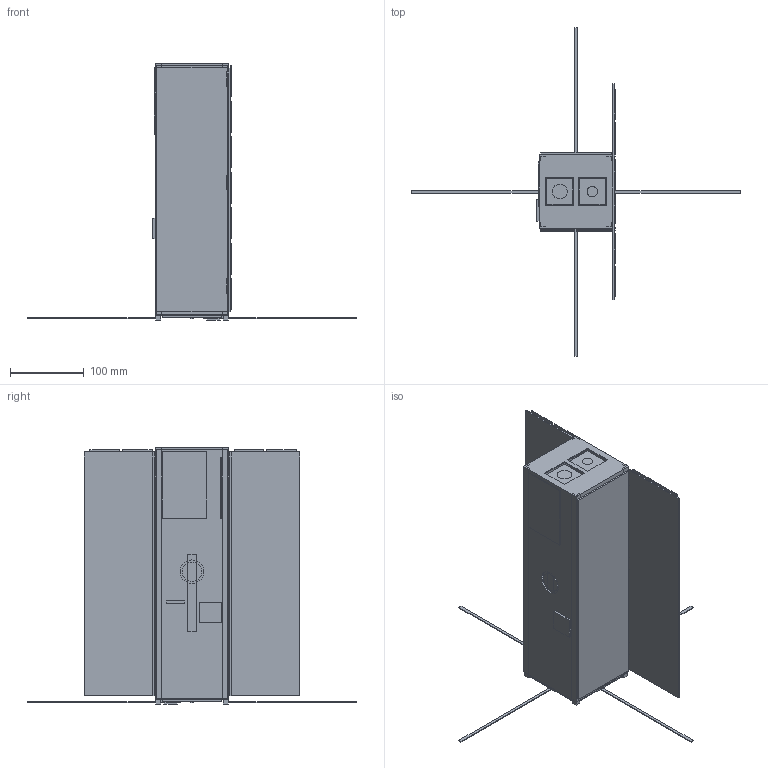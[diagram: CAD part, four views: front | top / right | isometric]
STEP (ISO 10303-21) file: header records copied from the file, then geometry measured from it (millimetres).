
FILE_DESCRIPTION(('Open CASCADE Model'),'2;1');
FILE_NAME('MetaCube_3U','2026-08-12T02:42:46',('Author'),('Open CASCADE' ),'Open CASCADE STEP processor 7.9','build123d','Unknown');
FILE_SCHEMA(('AUTOMOTIVE_DESIGN { 1 0 10303 214 1 1 1 1 }'));
Length unit declared in the file: millimetre
Products named in the file (196): MetaCube_3U; structure_skin; rails; COMPOUND; standoffs; prop_case; prop_tank; prop_valve; nozzle; uhf_board; gpsimu_board; sband_board; obc_board; eps_board; battery; adcs_boards; rws; torquers; startracker; reinforce; opt_base; tubes; apertures; detectors; opt_if; heaters; pt1000; strap; rf_coax; harness; harness_zone; radiator; solar_sub; solar_cells; aux_cells; hinges; wings_dep; wing_cells; wings_stowed; sband_patch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
Assembly tree (198 placements, depth 3):
  MetaCube_3U
    structure_skin
    rails
      COMPOUND  x4
    standoffs
      COMPOUND
      COMPOUND
      COMPOUND
      COMPOUND
      COMPOUND
      COMPOUND
      COMPOUND
      COMPOUND
      COMPOUND
      COMPOUND
      COMPOUND
      COMPOUND
      COMPOUND
      COMPOUND
      COMPOUND
      COMPOUND
      COMPOUND
      COMPOUND
      COMPOUND
      COMPOUND
    prop_case
    prop_tank
    prop_valve
    nozzle
      COMPOUND
      COMPOUND
    uhf_board
      COMPOUND
      COMPOUND
      COMPOUND
    gpsimu_board
    sband_board
    obc_board
      COMPOUND
      COMPOUND
    eps_board
      COMPOUND
      COMPOUND
    battery
    adcs_boards
      COMPOUND
      COMPOUND
    rws
      COMPOUND
      COMPOUND
      COMPOUND
    torquers
      COMPOUND
      COMPOUND
    startracker
      COMPOUND
      COMPOUND
    reinforce
      COMPOUND
      COMPOUND
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Bounding box: 444 x 444 x 346.5 mm (x, y, z)
Volume: 2304940.4 mm3; surface area: 1355586 mm2
Topology: 166 solids, 168 shells, 953 faces, 1845 edges, 1230 vertices
Faces by surface type: plane 922, cylinder 30, cone 1
Full cylindrical faces by diameter (mm): 3 x4, 6 x1, 7 x16, 14 x1, 19 x1, 20 x1, 26 x1, 32 x1, 33 x3, 78 x1
Entity records: 49534 total; most frequent: CARTESIAN_POINT 7767, DIRECTION 7619, LINE 5177, VECTOR 5177, ORIENTED_EDGE 3582, PCURVE 3582, DEFINITIONAL_REPRESENTATION 3582, EDGE_CURVE 1791
